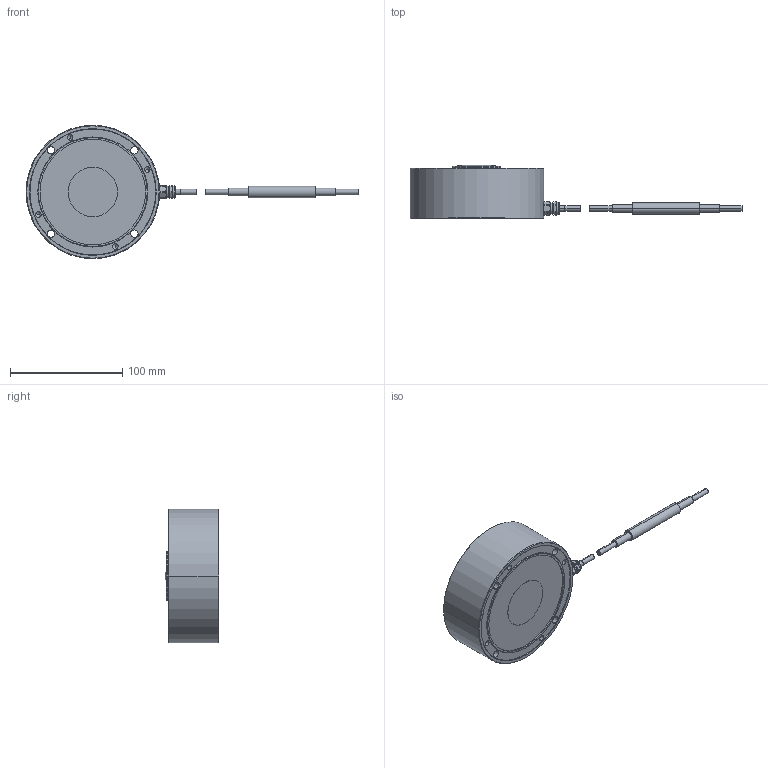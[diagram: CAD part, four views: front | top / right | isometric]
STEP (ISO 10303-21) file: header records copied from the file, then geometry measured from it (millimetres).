
FILE_DESCRIPTION(('STEP AP203'),'1');
FILE_NAME('C:/TPO v2/SharedFS/Outgoing/burster_8527-6010_79yifpdvyda3c7g6of69v6c91.stp','2013-08-27T13:26:11',('TraceParts'),('TraceParts S.A.'),'XStep 1.0',' ',' ');
FILE_SCHEMA(('CONFIG_CONTROL_DESIGN'));
Length unit declared in the file: millimetre
Products named in the file (2): 1; 2
Bounding box: 295.75 x 47.61 x 119 mm (x, y, z)
Volume: 492483.4 mm3; surface area: 48656.6 mm2
Topology: 2 solids, 2 shells, 153 faces, 356 edges, 223 vertices
Faces by surface type: cylinder 78, plane 36, cone 30, torus 8, sphere 1
Entity records: 4478 total; most frequent: DIRECTION 833, CARTESIAN_POINT 809, ORIENTED_EDGE 696, AXIS2_PLACEMENT_3D 356, EDGE_CURVE 348, VERTEX_POINT 223, CIRCLE 201, EDGE_LOOP 185
